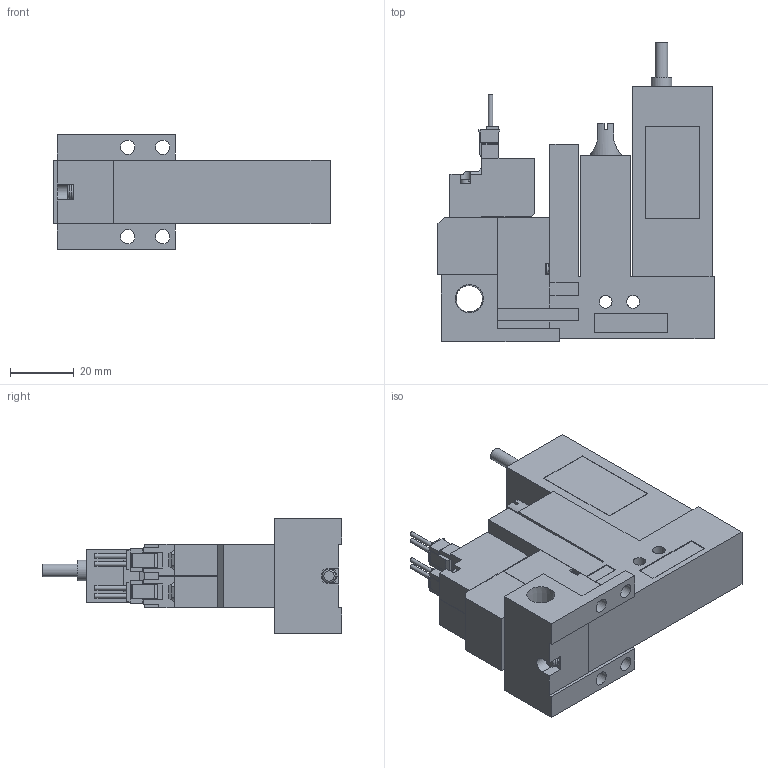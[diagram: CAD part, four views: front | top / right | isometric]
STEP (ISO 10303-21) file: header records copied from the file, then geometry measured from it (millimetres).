
FILE_DESCRIPTION(('STEP AP203'),'1');
FILE_NAME('VG-VGPL5BLR101.stp','2025-02-18T05:31:53',(' '),(' '),'Spatial InterOp 3D',' ',' ');
FILE_SCHEMA(('CONFIG_CONTROL_DESIGN'));
Length unit declared in the file: millimetre
Products named in the file (5): BMC22M※※※※VG-VGPL5BLR101; Solenoid valve B; Pressure sensor VGL; Unit L; Base MR10R
Assembly tree (4 placements, depth 2):
  BMC22M※※※※VG-VGPL5BLR101
    Solenoid valve B
    Pressure sensor VGL
    Unit L
    Base MR10R
Bounding box: 86.6 x 94 x 36 mm (x, y, z)
Volume: 104121.5 mm3; surface area: 29444 mm2
Topology: 4 solids, 4 shells, 376 faces, 1009 edges, 669 vertices
Faces by surface type: plane 314, cylinder 50, cone 9, torus 3
Full cylindrical faces by diameter (mm): 1.4 x4, 2.5 x3, 3 x4, 3.5 x4, 3.6 x1, 4 x6, 4.134 x1, 4.5 x4, 5.2 x1, 6 x1, 6.5 x1, 6.6 x1, 8.279 x1
Entity records: 11627 total; most frequent: CARTESIAN_POINT 2113, ORIENTED_EDGE 1884, DIRECTION 1840, EDGE_CURVE 942, LINE 796, VECTOR 796, VERTEX_POINT 650, AXIS2_PLACEMENT_3D 522
